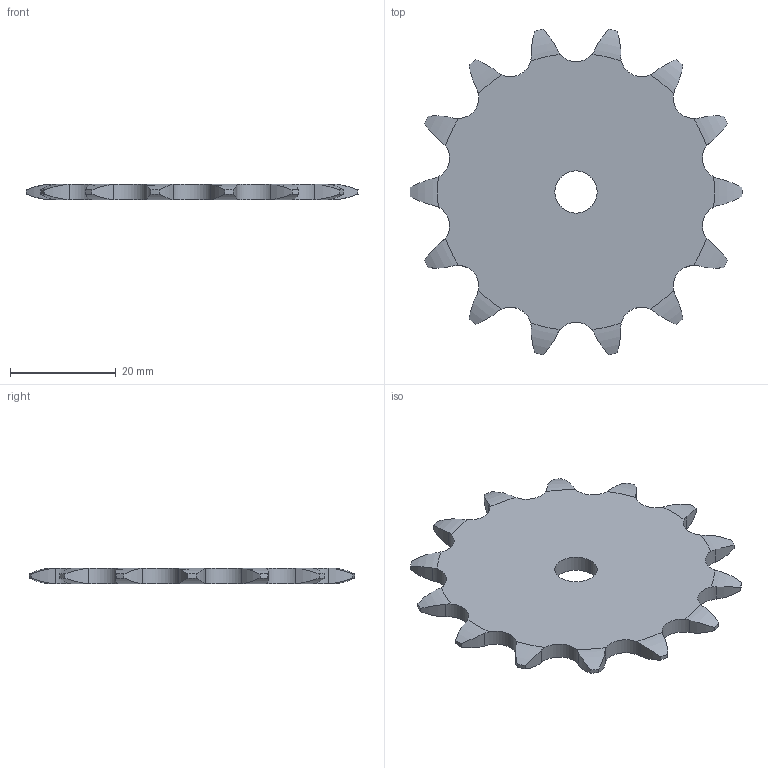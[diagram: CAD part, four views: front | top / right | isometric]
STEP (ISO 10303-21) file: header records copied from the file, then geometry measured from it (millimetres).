
FILE_DESCRIPTION((''),'2;1');
FILE_NAME('500-231-0014_PRT','2021-02-12T',('Brieden'),('Brieden'),'PRO/ENGINEER BY PARAMETRIC TECHNOLOGY CORPORATION, 2010160','PRO/ENGINEER BY PARAMETRIC TECHNOLOGY CORPORATION, 2010160','');
FILE_SCHEMA(('AUTOMOTIVE_DESIGN { 1 0 10303 214 1 1 1 1 }'));
Length unit declared in the file: millimetre
Products named in the file (1): 500-231-0014_PRT
Bounding box: 62.8 x 61.57 x 3 mm (x, y, z)
Volume: 6744.2 mm3; surface area: 5355.4 mm2
Topology: 1 solids, 1 shells, 88 faces, 258 edges, 172 vertices
Faces by surface type: cylinder 58, torus 28, plane 2
Entity records: 4144 total; most frequent: CARTESIAN_POINT 1091, ORIENTED_EDGE 516, DIRECTION 410, PRESENTATION_STYLE_ASSIGNMENT 259, STYLED_ITEM 259, CURVE_STYLE 258, EDGE_CURVE 258, AXIS2_PLACEMENT_3D 176
